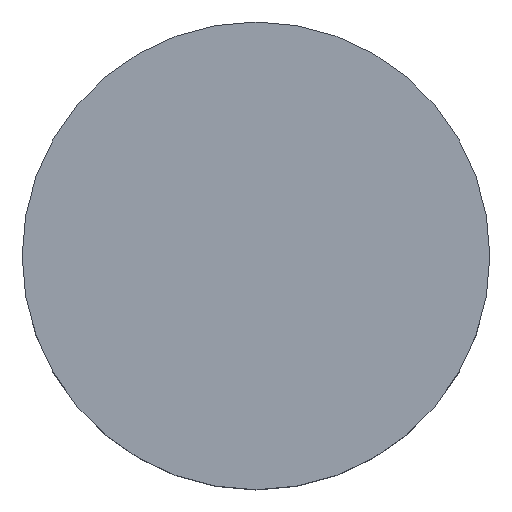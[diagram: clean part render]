
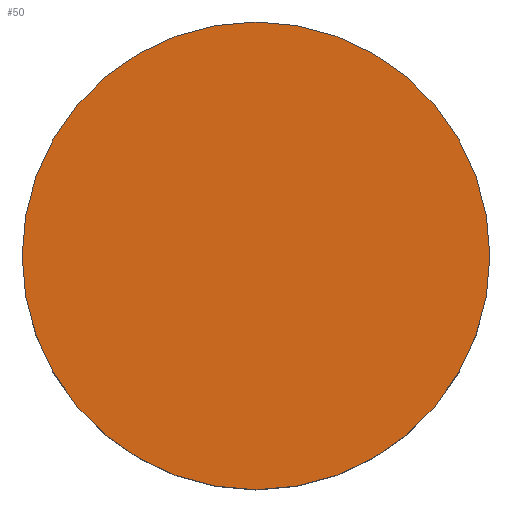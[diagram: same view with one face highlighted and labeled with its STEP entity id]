
A CAD part, top view. The second image highlights one B-rep face of the part: STEP entity #50.
In plain terms, the highlighted planar face has unit normal (0, 0, 1).
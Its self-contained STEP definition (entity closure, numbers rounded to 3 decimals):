
#21 = EDGE_CURVE('',#22,#22,#24,.T.);
#22 = VERTEX_POINT('',#23);
#23 = CARTESIAN_POINT('',(24.,15.,0.));
#24 = CIRCLE('',#25,9.);
#25 = AXIS2_PLACEMENT_3D('',#26,#27,#28);
#26 = CARTESIAN_POINT('',(15.,15.,0.));
#27 = DIRECTION('',(0.,0.,1.));
#28 = DIRECTION('',(1.,0.,0.));
#50 = ADVANCED_FACE('',(#51),#54,.T.);
#51 = FACE_BOUND('',#52,.T.);
#52 = EDGE_LOOP('',(#53));
#53 = ORIENTED_EDGE('',*,*,#21,.T.);
#54 = PLANE('',#55);
#55 = AXIS2_PLACEMENT_3D('',#56,#57,#58);
#56 = CARTESIAN_POINT('',(15.,15.,0.));
#57 = DIRECTION('',(0.,0.,1.));
#58 = DIRECTION('',(1.,0.,0.));
